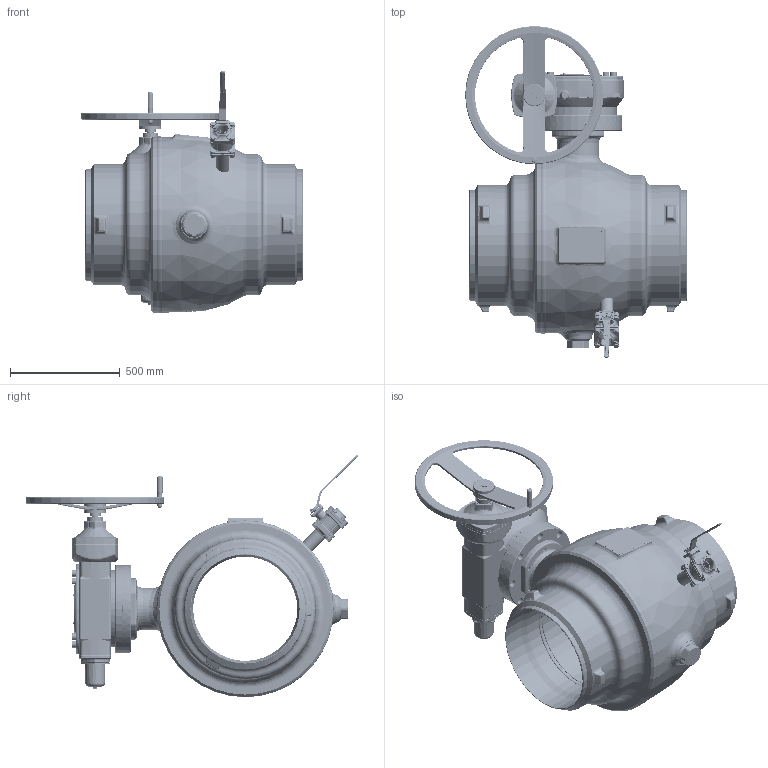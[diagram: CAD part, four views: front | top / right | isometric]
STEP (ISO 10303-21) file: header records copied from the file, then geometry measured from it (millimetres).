
FILE_DESCRIPTION((''),'2;1');
FILE_NAME('ASM0001_ASM','2026-01-28T11:03:31',('schwaba'),('KLINGER'),'CREO PARAMETRIC BY PTC INC, 2023014','CREO PARAMETRIC BY PTC INC, 2023014','');
FILE_SCHEMA(('CONFIG_CONTROL_DESIGN'));
Products named in the file (3): KHSVI_500_FR_WE_ENTL; GS200_434_F30_AHR630_DN600; ASM0001_ASM
Assembly tree (2 placements, depth 2):
  ASM0001_ASM
    KHSVI_500_FR_WE_ENTL
    GS200_434_F30_AHR630_DN600
Bounding box: 1010.5 x 1512.94 x 1104.86 mm (x, y, z)
Volume: 156207940.3 mm3; surface area: 10843246.1 mm2
Topology: 2 solids, 6 shells, 5038 faces, 12085 edges, 7193 vertices
Faces by surface type: plane 1518, cylinder 1286, torus 763, cone 666, bspline 653, sphere 113, revolution 31, extrusion 8
Entity records: 304828 total; most frequent: CARTESIAN_POINT 193271, ORIENTED_EDGE 24048, DIRECTION 22696, EDGE_CURVE 12024, AXIS2_PLACEMENT_3D 9509, VERTEX_POINT 7193, EDGE_LOOP 5367, CIRCLE 5154
